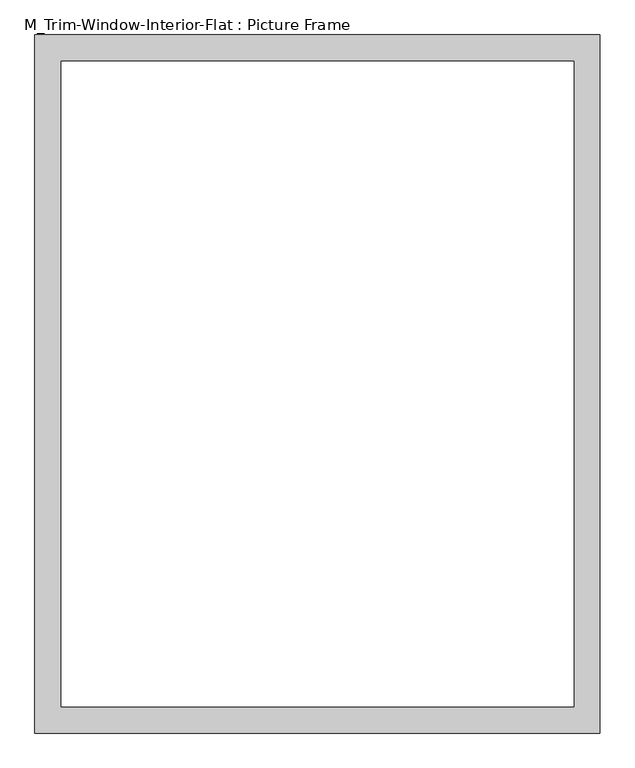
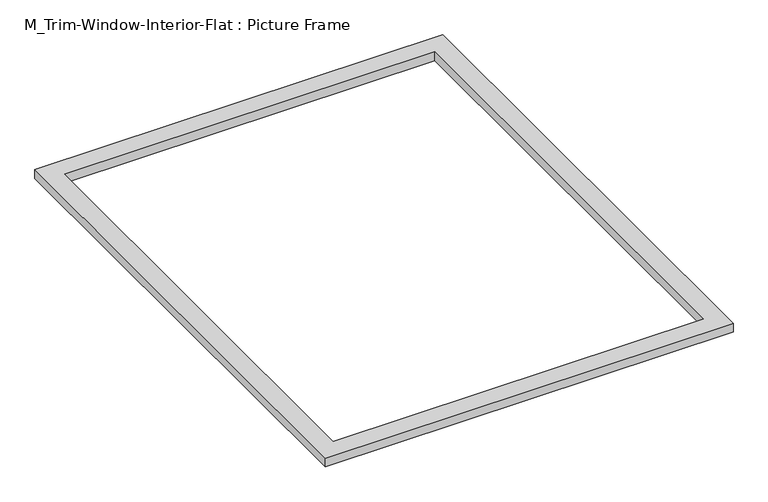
"""IFC4 building model written with IfcOpenShell, lengths in millimetres: proxy geometry, M_Trim-Window-Interior-Flat : Picture Frame."""

from ifc_helpers import new_model, si_unit, origin, origin_with_axes, place, context, project, spatial, polyline, outline, extrude, source, transform, mapped, element, save


def m_trim_window_interior_flat_picture_frame_c5815004(model_context):
    return source(origin(), model_context, "Body", "SweptSolid", [
        extrude(outline(polyline([(649.4, 47.3), (649.4, -1556.3), (-649.4, -1556.3), (-649.4, 47.3), (649.4, 47.3)]), holes=[polyline([(589.4, -12.7), (-589.4, -12.7), (-589.4, -1496.3), (589.4, -1496.3), (589.4, -12.7)])]), origin_with_axes(), (0.0, 0.0, 1.0), 30.0),
    ])


if __name__ == "__main__":
    model = new_model("IFC4")
    model_context = context("Model", 3, world=origin())
    ifc_project = project(units=[si_unit("LENGTHUNIT", "METRE", prefix="MILLI")], contexts=[model_context])
    site = spatial("IfcSite", under=ifc_project)
    building = spatial("IfcBuilding", under=site)
    placement = place(None, origin())
    m_trim_window_interior_flat_picture_frame_shape = m_trim_window_interior_flat_picture_frame_c5815004(model_context)
    element("IfcBuildingElementProxy", 1, Name="M_Trim-Window-Interior-Flat : Picture Frame", ObjectType="M_Trim-Window-Interior-Flat : Picture Frame", at=placement, inside=building, context=model_context, shape_type="MappedRepresentation", body=[
        mapped(m_trim_window_interior_flat_picture_frame_shape, transform((0.0, 0.0, 0.0), x_axis=(1.0, 0.0, 0.0), y_axis=(0.0, 1.0, 0.0), z_axis=(0.0, 0.0, 1.0))),
    ])
    save(model, "model.ifc")
